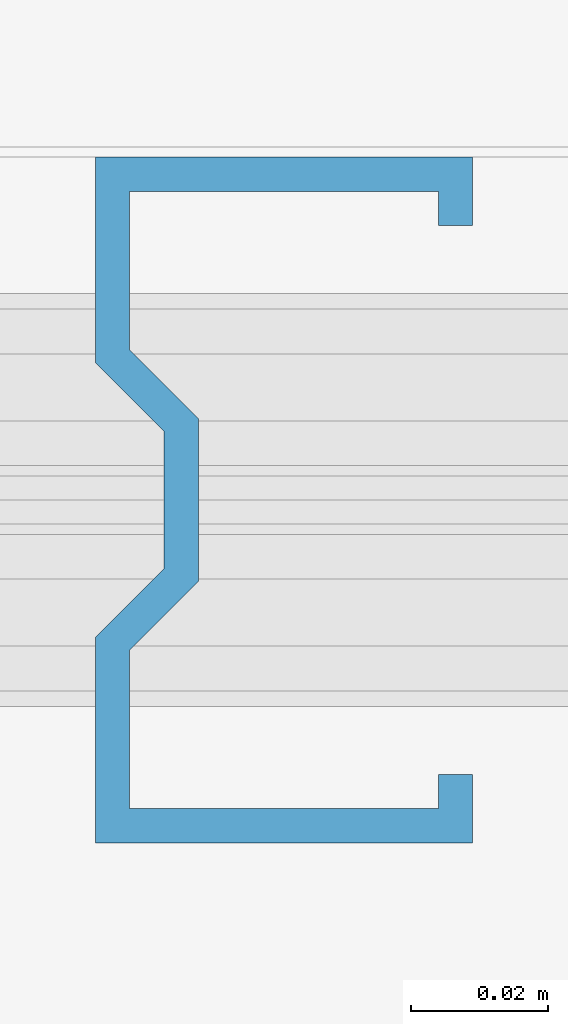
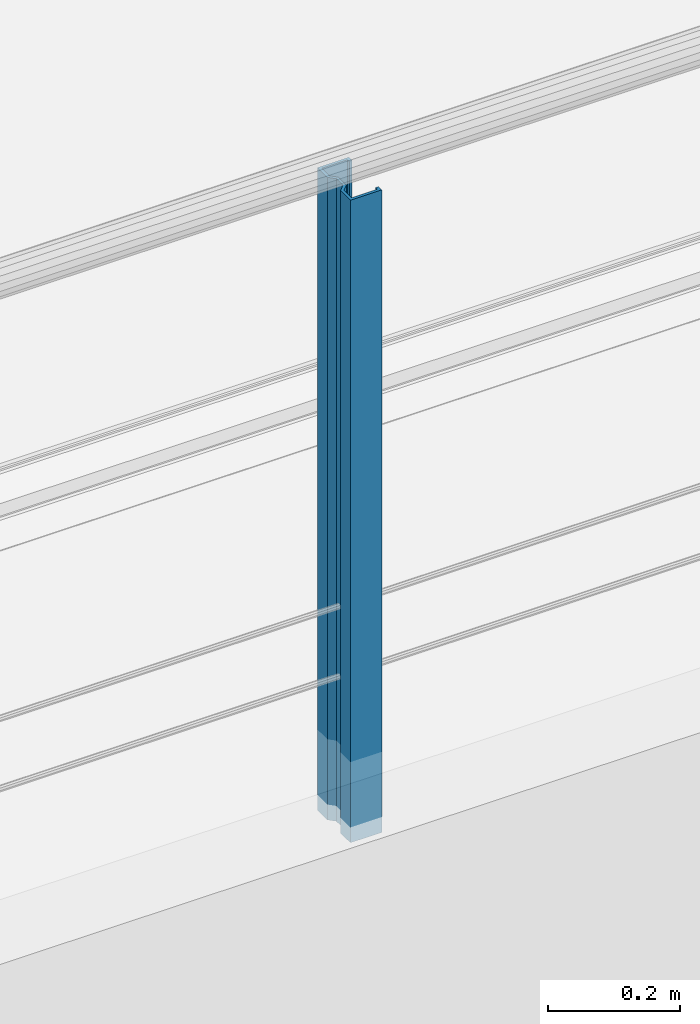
# One storey, part 15 of 31: 1 beam.
"""IFC2X3 building model written with IfcOpenShell, lengths in millimetres."""

from ifc_helpers import new_model, si_unit, frame, origin_with_axes, place, context, subcontext, project, spatial, faceted_brep, material, type_object, element, save


model = new_model("IFC2X3")

# Units and contexts
model_context = context("Model", 3, precision=1e-05, world=origin_with_axes())
body_context = subcontext(model_context, "Body", "Model", "MODEL_VIEW")
ifc_project = project(units=[si_unit("LENGTHUNIT", "METRE", prefix="MILLI"), si_unit("AREAUNIT", "SQUARE_METRE"), si_unit("VOLUMEUNIT", "CUBIC_METRE"), si_unit("MASSUNIT", "GRAM", prefix="KILO"), si_unit("TIMEUNIT", "SECOND"), si_unit("PLANEANGLEUNIT", "RADIAN"), si_unit("SOLIDANGLEUNIT", "STERADIAN"), si_unit("THERMODYNAMICTEMPERATUREUNIT", "DEGREE_CELSIUS"), si_unit("LUMINOUSINTENSITYUNIT", "LUMEN")], contexts=[model_context])

# Site, building, storey
site_placement = place(None, origin_with_axes())
site = spatial("IfcSite", under=ifc_project, at=site_placement, Name="Undefined", CompositionType="ELEMENT")
building_placement = place(site_placement, origin_with_axes())
building = spatial("IfcBuilding", under=site, at=building_placement, Name="Undefined", CompositionType="ELEMENT")
storey_placement = place(building_placement, origin_with_axes())
storey = spatial("IfcBuildingStorey", under=building, at=storey_placement, Name="Undefined", CompositionType="ELEMENT", Elevation=0.0)

# Beam
ifc_material = material(Name="STEEL/S355J2+N")
beam_type = type_object("IfcBeamType", Name="CW100-5-10*55-10-30", PredefinedType="NOTDEFINED")
beam_placement = place(storey_placement, frame((29577.5, -600.0, 1040.0), z_axis=(0.0, 1.0, 0.0), x_axis=(0.0, 0.0, -1.0)))
element("IfcBeam", 1, at=beam_placement, inside=storey, type_object=beam_type, material=ifc_material, Name="BB-STOLPE", context=body_context, shape_type="Brep", body=[
    faceted_brep([(0.0, -27.5, -50.0), (0.0, 27.5, -50.0), (1190.0, 27.5, -50.0), (1190.0, -27.5, -50.0), (0.0, 27.5, -20.0), (1190.0, 27.5, -20.0), (0.0, 17.5, -10.0), (1190.0, 17.5, -10.0), (0.0, 17.5, 10.0), (1190.0, 17.5, 10.0), (0.0, 27.5, 20.0), (1190.0, 27.5, 20.0), (0.0, 27.5, 50.0), (1190.0, 27.5, 50.0), (0.0, -27.5, 50.0), (1190.0, -27.5, 50.0), (0.0, -27.5, 40.0), (1190.0, -27.5, 40.0), (0.0, -22.5, 40.0), (1190.0, -22.5, 40.0), (0.0, -22.5, 45.0), (1190.0, -22.5, 45.0), (0.0, 22.5, 45.0), (1190.0, 22.5, 45.0), (0.0, 22.5, 21.9149999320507), (1190.0, 22.5, 21.9149999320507), (0.0, 12.5, 11.9149999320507), (1190.0, 12.5, 11.9149999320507), (0.0, 12.5, -11.9149999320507), (1190.0, 12.5, -11.9149999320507), (0.0, 22.5, -21.9149999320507), (1190.0, 22.5, -21.9149999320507), (0.0, 22.5, -45.0), (1190.0, 22.5, -45.0), (0.0, -22.5, -45.0), (1190.0, -22.5, -45.0), (0.0, -22.5, -40.0), (1190.0, -22.5, -40.0), (0.0, -27.5, -40.0), (1190.0, -27.5, -40.0)], [[[0, 1, 2, 3]], [[1, 4, 5, 2]], [[4, 6, 7, 5]], [[6, 8, 9, 7]], [[8, 10, 11, 9]], [[10, 12, 13, 11]], [[12, 14, 15, 13]], [[14, 16, 17, 15]], [[16, 18, 19, 17]], [[18, 20, 21, 19]], [[20, 22, 23, 21]], [[22, 24, 25, 23]], [[24, 26, 27, 25]], [[26, 28, 29, 27]], [[28, 30, 31, 29]], [[30, 32, 33, 31]], [[32, 34, 35, 33]], [[34, 36, 37, 35]], [[36, 38, 39, 37]], [[38, 0, 3, 39]], [[5, 7, 9, 11, 13, 15, 17, 19, 21, 23, 25, 27, 29, 31, 33, 35, 37, 39, 3, 2]], [[38, 36, 34, 32, 30, 28, 26, 24, 22, 20, 18, 16, 14, 12, 10, 8, 6, 4, 1, 0]]]),
])

save(model, "model.ifc")
